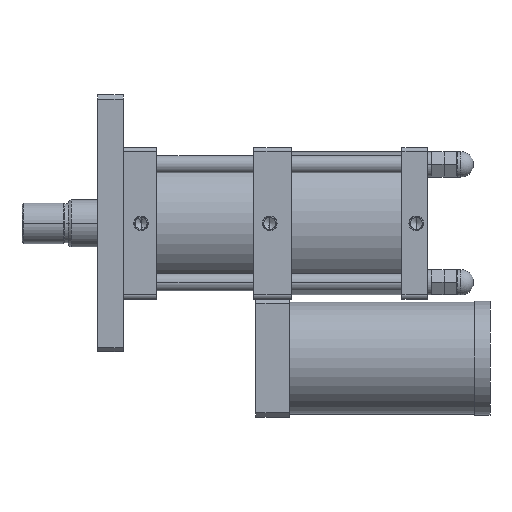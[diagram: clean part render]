
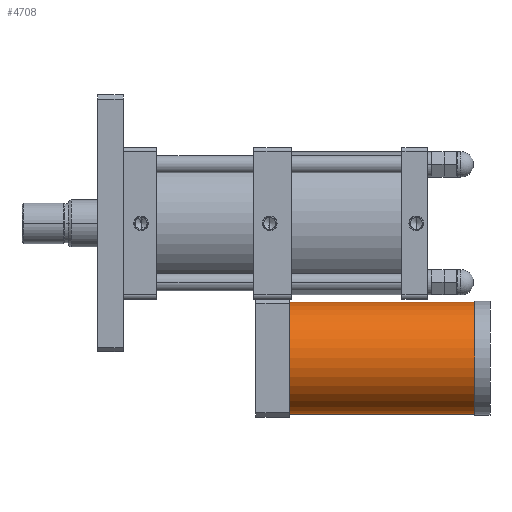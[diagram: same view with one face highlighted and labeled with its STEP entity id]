
A CAD part, front view. The second image highlights one B-rep face of the part: STEP entity #4708.
In plain terms, the highlighted cylindrical face has radius 66.5 mm (diameter 133 mm), a partial arc.
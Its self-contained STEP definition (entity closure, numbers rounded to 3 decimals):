
#652 = ORIENTED_EDGE ( 'NONE', *, *, #8092, .F. ) ;
#1264 = DIRECTION ( 'NONE',  ( 1., 0., 0. ) ) ;
#3263 = CARTESIAN_POINT ( 'NONE',  ( 537.5, 0., -93.5 ) ) ;
#3423 = ORIENTED_EDGE ( 'NONE', *, *, #9603, .T. ) ;
#4085 = CIRCLE ( 'NONE', #7790, 66.5 ) ;
#4241 = DIRECTION ( 'NONE',  ( -1., 0., 0. ) ) ;
#4277 = CARTESIAN_POINT ( 'NONE',  ( 317.5, 0., -93.5 ) ) ;
#4708 = ADVANCED_FACE ( 'NONE', ( #6071 ), #10748, .T. ) ;
#4843 = LINE ( 'NONE', #11962, #9832 ) ;
#5079 = CARTESIAN_POINT ( 'NONE',  ( 317.5, 0., -160. ) ) ;
#5158 = CIRCLE ( 'NONE', #7623, 66.5 ) ;
#6030 = DIRECTION ( 'NONE',  ( 0., 0., -1. ) ) ;
#6071 = FACE_OUTER_BOUND ( 'NONE', #10801, .T. ) ;
#6392 = ORIENTED_EDGE ( 'NONE', *, *, #10370, .T. ) ;
#6422 = DIRECTION ( 'NONE',  ( -1., 0., 0. ) ) ;
#6502 = DIRECTION ( 'NONE',  ( 0., 0., 1. ) ) ;
#7021 = CARTESIAN_POINT ( 'NONE',  ( 537.5, 0., -160. ) ) ;
#7081 = EDGE_CURVE ( 'NONE', #8267, #7704, #7089, .T. ) ;
#7089 = LINE ( 'NONE', #9865, #12003 ) ;
#7112 = CARTESIAN_POINT ( 'NONE',  ( 317.5, 0., -226.5 ) ) ;
#7623 = AXIS2_PLACEMENT_3D ( 'NONE', #7021, #1264, #7949 ) ;
#7704 = VERTEX_POINT ( 'NONE', #7112 ) ;
#7790 = AXIS2_PLACEMENT_3D ( 'NONE', #5079, #11591, #6030 ) ;
#7949 = DIRECTION ( 'NONE',  ( 0., 0., -1. ) ) ;
#8092 = EDGE_CURVE ( 'NONE', #8137, #8267, #5158, .T. ) ;
#8137 = VERTEX_POINT ( 'NONE', #3263 ) ;
#8267 = VERTEX_POINT ( 'NONE', #9031 ) ;
#9031 = CARTESIAN_POINT ( 'NONE',  ( 537.5, 0., -226.5 ) ) ;
#9603 = EDGE_CURVE ( 'NONE', #10495, #7704, #4085, .T. ) ;
#9832 = VECTOR ( 'NONE', #6422, 1000. ) ;
#9865 = CARTESIAN_POINT ( 'NONE',  ( 537.5, 0., -226.5 ) ) ;
#10206 = DIRECTION ( 'NONE',  ( -1., 0., 0. ) ) ;
#10370 = EDGE_CURVE ( 'NONE', #8137, #10495, #4843, .T. ) ;
#10495 = VERTEX_POINT ( 'NONE', #4277 ) ;
#10609 = AXIS2_PLACEMENT_3D ( 'NONE', #12038, #10206, #6502 ) ;
#10748 = CYLINDRICAL_SURFACE ( 'NONE', #10609, 66.5 ) ;
#10801 = EDGE_LOOP ( 'NONE', ( #11200, #652, #6392, #3423 ) ) ;
#11200 = ORIENTED_EDGE ( 'NONE', *, *, #7081, .F. ) ;
#11591 = DIRECTION ( 'NONE',  ( 1., 0., 0. ) ) ;
#11962 = CARTESIAN_POINT ( 'NONE',  ( 537.5, 0., -93.5 ) ) ;
#12003 = VECTOR ( 'NONE', #4241, 1000. ) ;
#12038 = CARTESIAN_POINT ( 'NONE',  ( 537.5, 0., -160. ) ) ;
